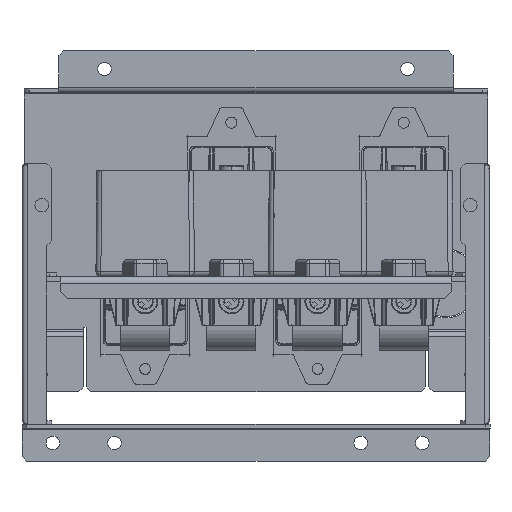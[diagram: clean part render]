
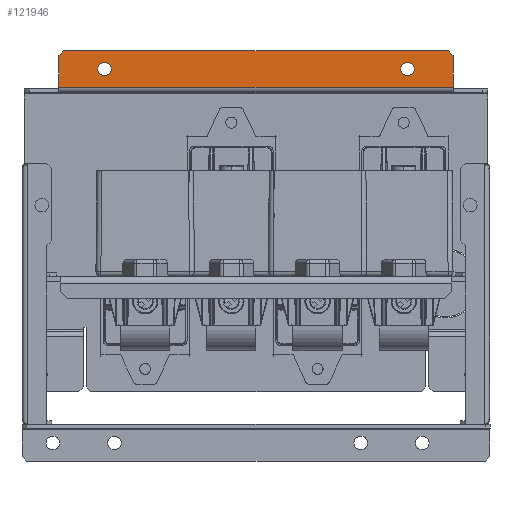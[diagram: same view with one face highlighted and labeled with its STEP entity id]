
A CAD part, left-side view. The second image highlights one B-rep face of the part: STEP entity #121946.
In plain terms, the highlighted planar face has unit normal (-1, 0, 0) as drawn and (0, 0, -1) by its records, which use the part's own axes.
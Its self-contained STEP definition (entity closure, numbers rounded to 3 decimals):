
#120476=CARTESIAN_POINT(' ',(-76.,-105.,-12.5));
#120477=VERTEX_POINT(' ',#120476);
#120491=CARTESIAN_POINT(' ',(-63.1,-105.,-12.5));
#120496=DIRECTION(' ',(-1.,0.,0.));
#120501=VECTOR(' ',#120496,1.);
#120506=LINE('',#120491,#120501);
#120511=CARTESIAN_POINT(' ',(-63.1,-105.,-12.5));
#120512=VERTEX_POINT(' ',#120511);
#120516=EDGE_CURVE(' ',#120512,#120477,#120506,.T.);
#120616=CARTESIAN_POINT(' ',(-63.1,-105.,-12.5));
#120621=DIRECTION(' ',(0.,1.,0.));
#120626=VECTOR(' ',#120621,1.);
#120631=LINE('',#120616,#120626);
#120636=CARTESIAN_POINT(' ',(-63.1,55.,-12.5));
#120637=VERTEX_POINT(' ',#120636);
#120641=EDGE_CURVE(' ',#120512,#120637,#120631,.T.);
#121526=CARTESIAN_POINT(' ',(-76.,-105.,-12.5));
#121531=DIRECTION(' ',(-0.707,0.707,0.));
#121536=VECTOR(' ',#121531,1.);
#121541=LINE('',#121526,#121536);
#121546=CARTESIAN_POINT(' ',(-78.,-103.,-12.5));
#121547=VERTEX_POINT(' ',#121546);
#121551=EDGE_CURVE(' ',#120477,#121547,#121541,.T.);
#121616=DIRECTION(' ',(0.,0.,-1.));
#121621=CARTESIAN_POINT(' ',(-78.,-105.,-12.5));
#121626=DIRECTION(' ',(0.,1.,0.));
#121631=AXIS2_PLACEMENT_3D(' ',#121621,#121616,#121626);
#121636=PLANE('NONE',#121631);
#121641=CARTESIAN_POINT(' ',(-78.,-103.,-12.5));
#121646=DIRECTION(' ',(0.,1.,0.));
#121651=VECTOR(' ',#121646,1.);
#121656=LINE('',#121641,#121651);
#121661=CARTESIAN_POINT(' ',(-78.,53.,-12.5));
#121662=VERTEX_POINT(' ',#121661);
#121666=EDGE_CURVE(' ',#121547,#121662,#121656,.T.);
#121671=ORIENTED_EDGE(' ',*,*,#121666,.T.);
#121676=CARTESIAN_POINT(' ',(-78.,53.,-12.5));
#121681=DIRECTION(' ',(0.707,0.707,0.));
#121686=VECTOR(' ',#121681,1.);
#121691=LINE('',#121676,#121686);
#121696=CARTESIAN_POINT(' ',(-76.,55.,-12.5));
#121697=VERTEX_POINT(' ',#121696);
#121701=EDGE_CURVE(' ',#121662,#121697,#121691,.T.);
#121706=ORIENTED_EDGE(' ',*,*,#121701,.T.);
#121711=CARTESIAN_POINT(' ',(-76.,55.,-12.5));
#121716=DIRECTION(' ',(1.,0.,0.));
#121721=VECTOR(' ',#121716,1.);
#121726=LINE('',#121711,#121721);
#121731=EDGE_CURVE(' ',#121697,#120637,#121726,.T.);
#121736=ORIENTED_EDGE(' ',*,*,#121731,.T.);
#121741=ORIENTED_EDGE(' ',*,*,#120641,.F.);
#121746=ORIENTED_EDGE(' ',*,*,#120516,.T.);
#121751=ORIENTED_EDGE(' ',*,*,#121551,.T.);
#121756=EDGE_LOOP(' ',(#121671,#121706,#121736,#121741,#121746,#121751));
#121761=FACE_OUTER_BOUND(' ',#121756,.T.);
#121766=CARTESIAN_POINT(' ',(-70.5,-86.5,-12.5));
#121771=DIRECTION(' ',(0.,0.,1.));
#121776=DIRECTION(' ',(1.,0.,0.));
#121781=AXIS2_PLACEMENT_3D(' ',#121766,#121771,#121776);
#121786=CIRCLE('',#121781,2.75);
#121791=CARTESIAN_POINT(' ',(-67.75,-86.5,-12.5));
#121792=VERTEX_POINT(' ',#121791);
#121796=CARTESIAN_POINT(' ',(-73.25,-86.5,-12.5));
#121797=VERTEX_POINT(' ',#121796);
#121801=EDGE_CURVE(' ',#121792,#121797,#121786,.T.);
#121806=ORIENTED_EDGE(' ',*,*,#121801,.T.);
#121811=CARTESIAN_POINT(' ',(-70.5,-86.5,-12.5));
#121816=DIRECTION(' ',(0.,0.,1.));
#121821=DIRECTION(' ',(-1.,0.,0.));
#121826=AXIS2_PLACEMENT_3D(' ',#121811,#121816,#121821);
#121831=CIRCLE('',#121826,2.75);
#121836=EDGE_CURVE(' ',#121797,#121792,#121831,.T.);
#121841=ORIENTED_EDGE(' ',*,*,#121836,.T.);
#121846=EDGE_LOOP(' ',(#121806,#121841));
#121851=FACE_BOUND(' ',#121846,.T.);
#121856=CARTESIAN_POINT(' ',(-70.5,36.5,-12.5));
#121861=DIRECTION(' ',(0.,0.,1.));
#121866=DIRECTION(' ',(1.,0.,0.));
#121871=AXIS2_PLACEMENT_3D(' ',#121856,#121861,#121866);
#121876=CIRCLE('',#121871,2.75);
#121881=CARTESIAN_POINT(' ',(-67.75,36.5,-12.5));
#121882=VERTEX_POINT(' ',#121881);
#121886=CARTESIAN_POINT(' ',(-73.25,36.5,-12.5));
#121887=VERTEX_POINT(' ',#121886);
#121891=EDGE_CURVE(' ',#121882,#121887,#121876,.T.);
#121896=ORIENTED_EDGE(' ',*,*,#121891,.T.);
#121901=CARTESIAN_POINT(' ',(-70.5,36.5,-12.5));
#121906=DIRECTION(' ',(0.,0.,1.));
#121911=DIRECTION(' ',(-1.,0.,0.));
#121916=AXIS2_PLACEMENT_3D(' ',#121901,#121906,#121911);
#121921=CIRCLE('',#121916,2.75);
#121926=EDGE_CURVE(' ',#121887,#121882,#121921,.T.);
#121931=ORIENTED_EDGE(' ',*,*,#121926,.T.);
#121936=EDGE_LOOP(' ',(#121896,#121931));
#121941=FACE_BOUND(' ',#121936,.T.);
#121946=ADVANCED_FACE('NONE',(#121761,#121851,#121941),#121636,.T.);
